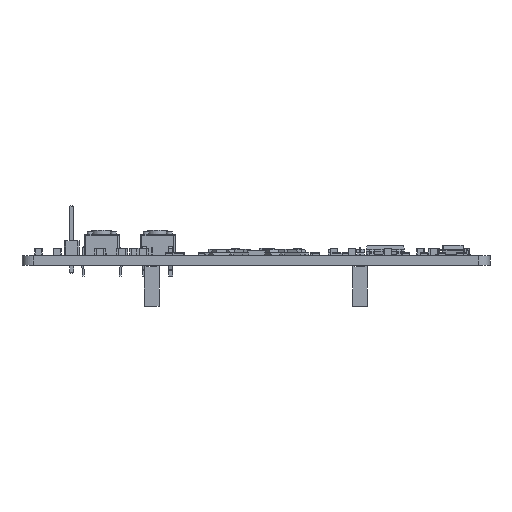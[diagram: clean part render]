
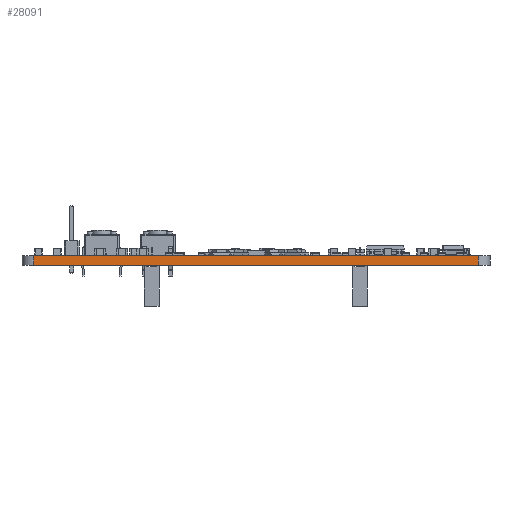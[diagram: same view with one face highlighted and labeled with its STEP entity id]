
A CAD part, front view. The second image highlights one B-rep face of the part: STEP entity #28091.
In plain terms, the highlighted planar face has unit normal (0, -1, 0).
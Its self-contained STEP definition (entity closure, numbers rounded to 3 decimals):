
#26623 = VERTEX_POINT('',#26624);
#26624 = CARTESIAN_POINT('',(121.,-148.,0.));
#26631 = EDGE_CURVE('',#26623,#26632,#26634,.T.);
#26632 = VERTEX_POINT('',#26633);
#26633 = CARTESIAN_POINT('',(45.,-148.,0.));
#26634 = LINE('',#26635,#26636);
#26635 = CARTESIAN_POINT('',(121.,-148.,0.));
#26636 = VECTOR('',#26637,1.);
#26637 = DIRECTION('',(-1.,0.,0.));
#27335 = VERTEX_POINT('',#27336);
#27336 = CARTESIAN_POINT('',(121.,-148.,1.6));
#27343 = EDGE_CURVE('',#27335,#27344,#27346,.T.);
#27344 = VERTEX_POINT('',#27345);
#27345 = CARTESIAN_POINT('',(45.,-148.,1.6));
#27346 = LINE('',#27347,#27348);
#27347 = CARTESIAN_POINT('',(121.,-148.,1.6));
#27348 = VECTOR('',#27349,1.);
#27349 = DIRECTION('',(-1.,0.,0.));
#28063 = EDGE_CURVE('',#26623,#27335,#28064,.T.);
#28064 = LINE('',#28065,#28066);
#28065 = CARTESIAN_POINT('',(121.,-148.,0.));
#28066 = VECTOR('',#28067,1.);
#28067 = DIRECTION('',(0.,0.,1.));
#28091 = ADVANCED_FACE('',(#28092),#28103,.T.);
#28092 = FACE_BOUND('',#28093,.T.);
#28093 = EDGE_LOOP('',(#28094,#28095,#28096,#28102));
#28094 = ORIENTED_EDGE('',*,*,#28063,.T.);
#28095 = ORIENTED_EDGE('',*,*,#27343,.T.);
#28096 = ORIENTED_EDGE('',*,*,#28097,.F.);
#28097 = EDGE_CURVE('',#26632,#27344,#28098,.T.);
#28098 = LINE('',#28099,#28100);
#28099 = CARTESIAN_POINT('',(45.,-148.,0.));
#28100 = VECTOR('',#28101,1.);
#28101 = DIRECTION('',(0.,0.,1.));
#28102 = ORIENTED_EDGE('',*,*,#26631,.F.);
#28103 = PLANE('',#28104);
#28104 = AXIS2_PLACEMENT_3D('',#28105,#28106,#28107);
#28105 = CARTESIAN_POINT('',(121.,-148.,0.));
#28106 = DIRECTION('',(0.,-1.,0.));
#28107 = DIRECTION('',(-1.,0.,0.));
